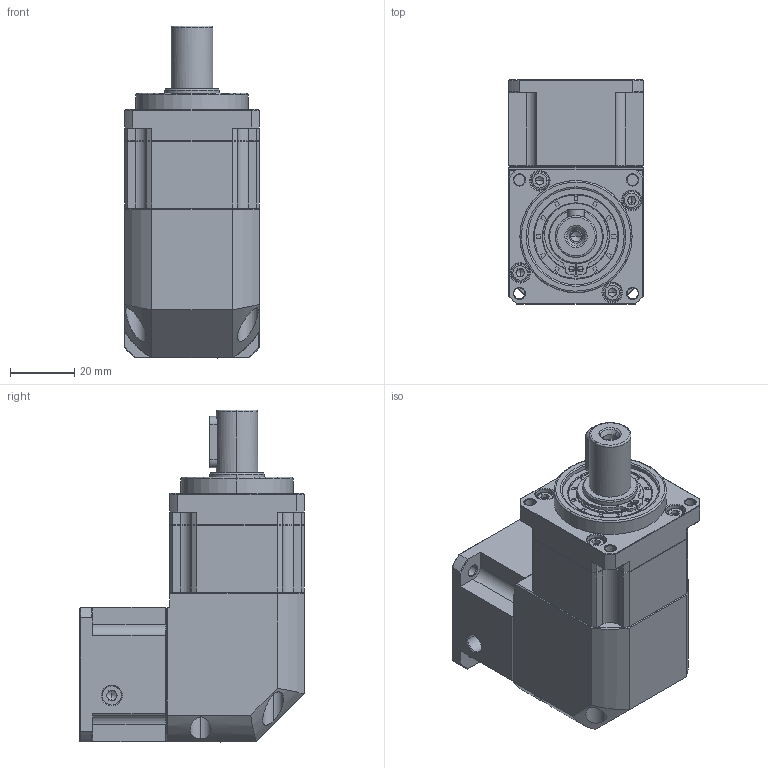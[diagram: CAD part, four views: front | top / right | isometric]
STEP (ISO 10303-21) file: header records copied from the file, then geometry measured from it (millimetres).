
FILE_DESCRIPTION (( 'STEP AP214' ), '1' );
FILE_NAME ('ZBR40-L1-P2-5-22-31X31-3.5.STEP', '2023-06-06T13:15:51', ( 'Windows 蚚誧' ), ( 'Organization' ), 'SwSTEP 2.0', 'SolidWorks 2016', '' );
FILE_SCHEMA (( 'AUTOMOTIVE_DESIGN' ));
Length unit declared in the file: millimetre
Products named in the file (1): ZBR40-L1-P2-5-22-31X31-3.5
Bounding box: 42 x 70 x 103.5 mm (x, y, z)
Volume: 153127.6 mm3; surface area: 40864.2 mm2
Topology: 7 solids, 7 shells, 2377 faces, 6336 edges, 4105 vertices
Faces by surface type: plane 1257, bspline 555, cylinder 295, cone 270
Entity records: 123778 total; most frequent: CARTESIAN_POINT 42184, ORIENTED_EDGE 12644, DIRECTION 9368, EDGE_CURVE 6322, VECTOR 4178, LINE 4178, VERTEX_POINT 4105, AXIS2_PLACEMENT_3D 2595
